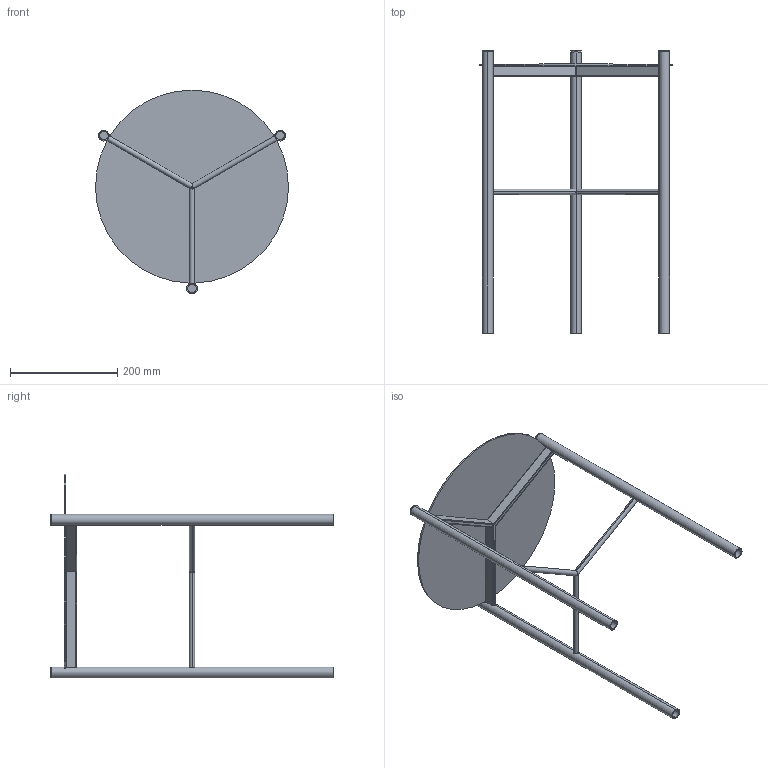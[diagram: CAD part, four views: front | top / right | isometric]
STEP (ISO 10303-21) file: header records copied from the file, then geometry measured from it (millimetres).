
FILE_DESCRIPTION (( 'STEP AP203' ), '1' );
FILE_NAME ('J601S.STEP', '2024-08-06T11:27:46', ( '' ), ( '' ), 'SwSTEP 2.0', 'SolidWorks 2022', '' );
FILE_SCHEMA (( 'CONFIG_CONTROL_DESIGN' ));
Length unit declared in the file: millimetre
Products named in the file (2): JXXXS00000000-00-jack metallo grezzo tutte le misure_J7B000001-JACK TAVOLINO D.36x51h<A macchina>; J601S
Assembly tree (1 placements, depth 2):
  J601S
    JXXXS00000000-00-jack metallo grezzo tutte le misure_J7B000001-JACK TAVOLINO D.36x51h<A macchina>
Bounding box: 359.95 x 527 x 380.07 mm (x, y, z)
Volume: 527799.5 mm3; surface area: 473377.5 mm2
Topology: 13 solids, 13 shells, 121 faces, 287 edges, 190 vertices
Faces by surface type: cylinder 71, plane 50
Entity records: 4317 total; most frequent: CARTESIAN_POINT 1434, ORIENTED_EDGE 574, DIRECTION 521, EDGE_CURVE 287, VERTEX_POINT 190, AXIS2_PLACEMENT_3D 187, VECTOR 147, LINE 147
